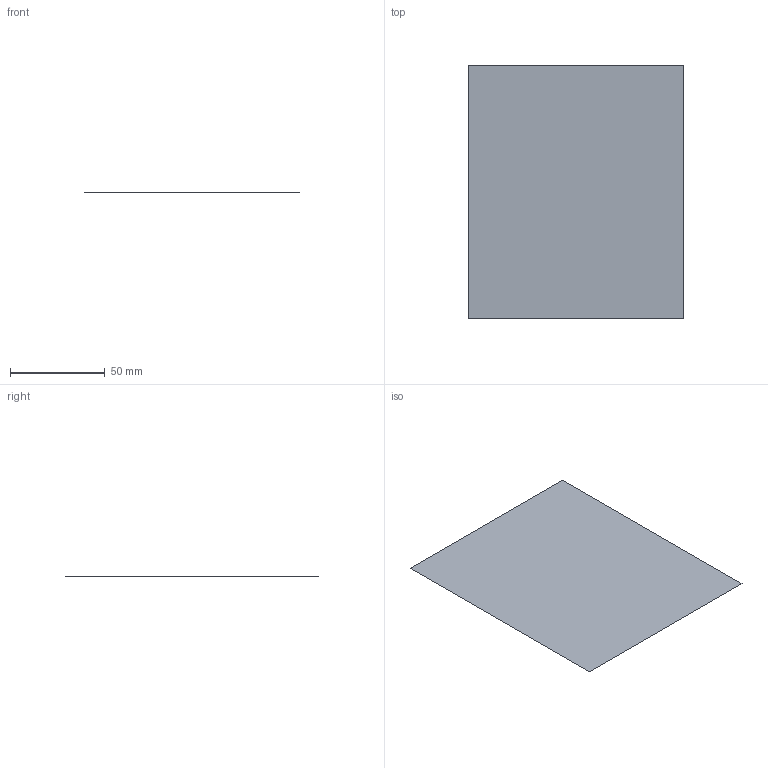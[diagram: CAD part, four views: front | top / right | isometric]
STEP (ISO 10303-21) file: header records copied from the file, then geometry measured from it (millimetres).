
FILE_DESCRIPTION(('CATIA V5 STEP Exchange'),'2;1');
FILE_NAME('C:\_Andres\UNIVERSIDAD\IQS\ASIGNATURAS\DAO\EXF\EXF-15161c\1original\Santolària_Rossell_Ej06-calculo_v24.stp','2016-03-04T20:57:43+00:00',('none'),('none'),'CATIA Version 5 Release 20 SP 1 (IN-10)','CATIA V5 STEP AP203','none');
FILE_SCHEMA(('CONFIG_CONTROL_DESIGN'));
Length unit declared in the file: millimetre
Products named in the file (1): Santolària_Rossell_Ej06-calculo_v24
Bounding box: 114 x 134 x 0 mm (x, y, z)
Surface area: 15276 mm2 (no closed solid volume)
Topology: 0 solids, 1 shells, 1 faces, 8 edges, 9 vertices
Faces by surface type: plane 1
Entity records: 130 total; most frequent: CARTESIAN_POINT 23, DIRECTION 12, VECTOR 8, LINE 8, COMPOSITE_CURVE_SEGMENT 4, ORIENTED_EDGE 4, CC_DESIGN_PERSON_AND_ORGANIZATION_ASSIGNMENT 4, PERSON_AND_ORGANIZATION_ROLE 4
